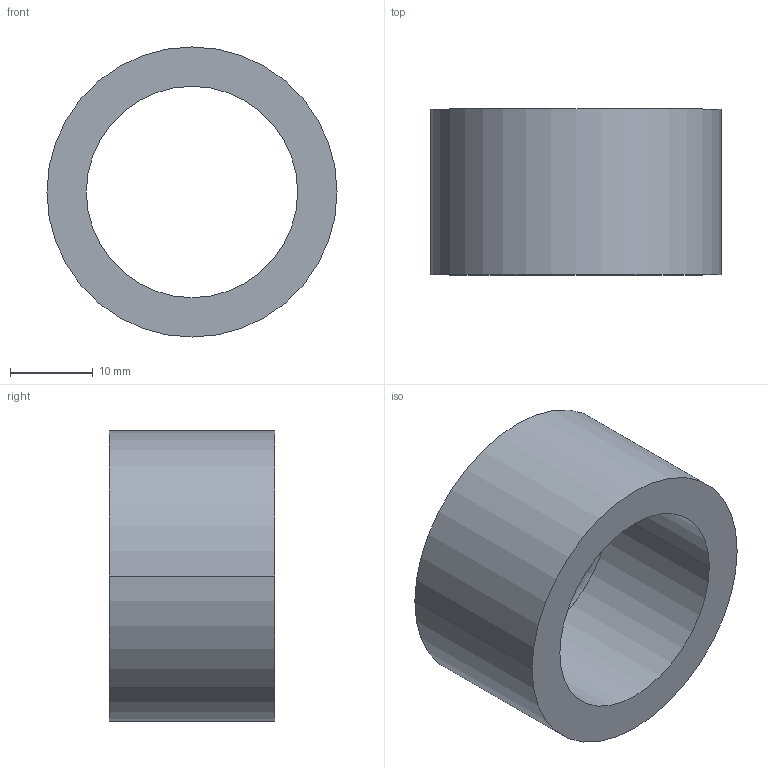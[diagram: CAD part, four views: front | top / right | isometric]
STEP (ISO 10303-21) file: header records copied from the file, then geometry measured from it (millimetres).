
FILE_DESCRIPTION (( 'STEP AP203' ), '1' );
FILE_NAME ('30800.WPP35H25.5.step', '2019-01-23T22:49:25', ( '' ), ( '' ), 'SwSTEP 2.0', 'SolidWorks 2017', '' );
FILE_SCHEMA (( 'CONFIG_CONTROL_DESIGN' ));
Length unit declared in the file: millimetre
Products named in the file (1): 30800.WPP35H25.5
Bounding box: 35 x 20 x 35 mm (x, y, z)
Volume: 8865.3 mm3; surface area: 4605 mm2
Topology: 1 solids, 1 shells, 8 faces, 16 edges, 10 vertices
Faces by surface type: cylinder 4, torus 2, plane 2
Entity records: 297 total; most frequent: DIRECTION 46, CARTESIAN_POINT 35, ORIENTED_EDGE 32, AXIS2_PLACEMENT_3D 21, EDGE_CURVE 16, CIRCLE 12, EDGE_LOOP 10, VERTEX_POINT 10
